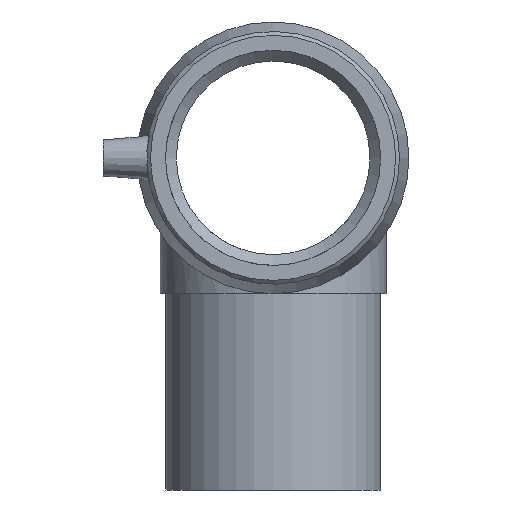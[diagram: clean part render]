
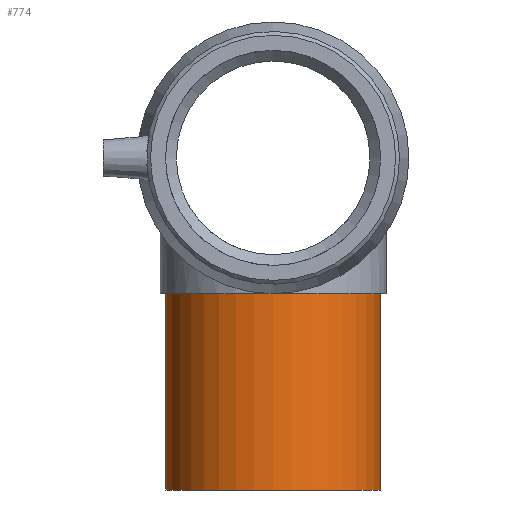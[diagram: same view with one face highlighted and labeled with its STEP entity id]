
A CAD part, left-side view. The second image highlights one B-rep face of the part: STEP entity #774.
In plain terms, the highlighted cylindrical face has radius 44.35 mm (diameter 88.7 mm), a full revolution.
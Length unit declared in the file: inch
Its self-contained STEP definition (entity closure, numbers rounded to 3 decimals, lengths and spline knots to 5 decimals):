
#73=FACE_OUTER_BOUND('',#120,.T.);
#120=EDGE_LOOP('',(#515,#516,#517,#518));
#179=LINE('',#1233,#210);
#210=VECTOR('',#965,1.74606);
#241=CIRCLE('',#842,1.74606);
#242=CIRCLE('',#843,1.74606);
#312=VERTEX_POINT('',#1230);
#313=VERTEX_POINT('',#1232);
#395=EDGE_CURVE('',#312,#312,#241,.T.);
#396=EDGE_CURVE('',#312,#313,#179,.T.);
#397=EDGE_CURVE('',#313,#313,#242,.T.);
#515=ORIENTED_EDGE('',*,*,#395,.T.);
#516=ORIENTED_EDGE('',*,*,#396,.T.);
#517=ORIENTED_EDGE('',*,*,#397,.F.);
#518=ORIENTED_EDGE('',*,*,#396,.F.);
#755=CYLINDRICAL_SURFACE('',#841,1.74606);
#774=ADVANCED_FACE('',(#73),#755,.T.);
#841=AXIS2_PLACEMENT_3D('',#1229,#961,#962);
#842=AXIS2_PLACEMENT_3D('',#1231,#963,#964);
#843=AXIS2_PLACEMENT_3D('',#1234,#966,#967);
#961=DIRECTION('center_axis',(0.,0.,1.));
#962=DIRECTION('ref_axis',(1.,0.,0.));
#963=DIRECTION('center_axis',(0.,0.,-1.));
#964=DIRECTION('ref_axis',(1.,0.,0.));
#965=DIRECTION('',(0.,0.,-1.));
#966=DIRECTION('center_axis',(0.,0.,-1.));
#967=DIRECTION('ref_axis',(1.,0.,0.));
#1229=CARTESIAN_POINT('Origin',(0.,0.,-5.39));
#1230=CARTESIAN_POINT('',(-1.74606,0.,-2.205));
#1231=CARTESIAN_POINT('Origin',(0.,0.,-2.205));
#1232=CARTESIAN_POINT('',(-1.74606,0.,-5.39));
#1233=CARTESIAN_POINT('',(-1.74606,0.,-5.39));
#1234=CARTESIAN_POINT('Origin',(0.,0.,-5.39));
